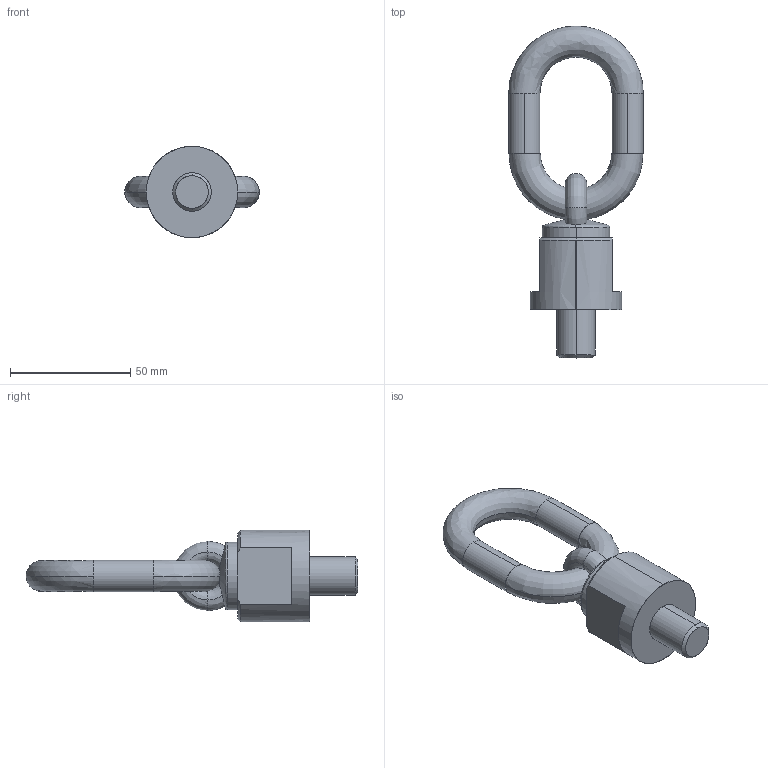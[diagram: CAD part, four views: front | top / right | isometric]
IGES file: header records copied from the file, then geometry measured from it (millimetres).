
Start section: START RECORD GO HERE.
Global section: file name: C8000101620.igs; native system: DASSAULT SYSTEMES CATIA V5 R20 - www.3ds.com; preprocessor: CATIA Version 5 Release 20 ; author: Utente; organization: NB04-ASUS; date: 20200412.162112; units: millimetre
Bounding box: 56 x 138 x 38 mm (x, y, z)
Surface area: 15327.1 mm2 (no closed solid volume)
Topology: 0 solids, 0 shells, 45 faces, 246 edges, 246 vertices
Faces by surface type: revolution 33, extrusion 12
